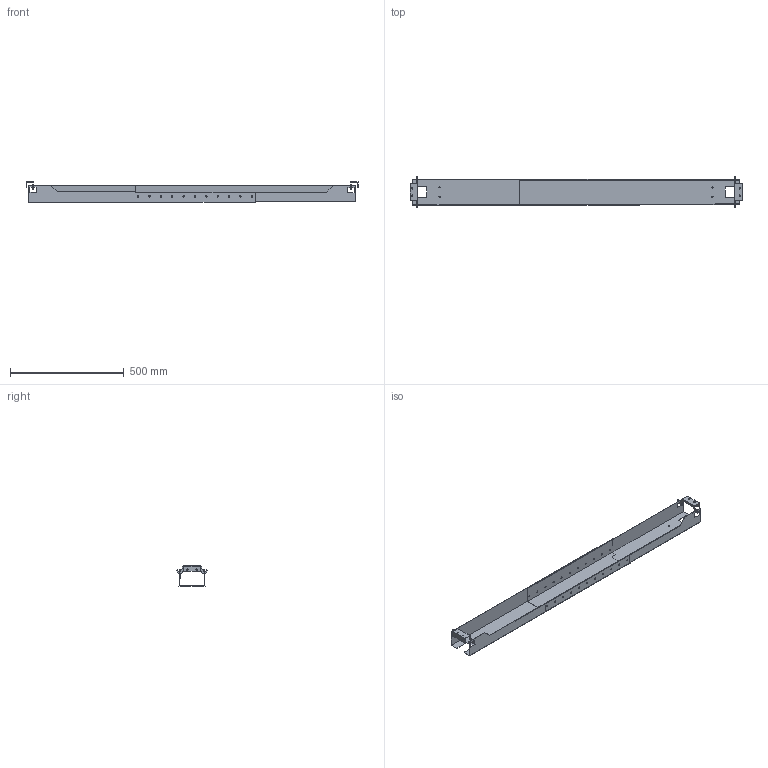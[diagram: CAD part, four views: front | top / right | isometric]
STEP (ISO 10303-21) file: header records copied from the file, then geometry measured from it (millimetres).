
FILE_DESCRIPTION( ( '' ), '1' );
FILE_NAME( 'C:/Users/dhek/Desktop/New folder/C_6/Legadrive/9243053.stp', '2018-02-20T11:36:23', ( '' ), ( '' ), ' ', ' ', ' ' );
FILE_SCHEMA( ( 'CONFIG_CONTROL_DESIGN' ) );
Length unit declared in the file: millimetre
Products named in the file (1): 1
Bounding box: 1460 x 133.54 x 89 mm (x, y, z)
Volume: 464578.2 mm3; surface area: 916634.7 mm2
Topology: 1 solids, 1 shells, 375 faces, 1191 edges, 816 vertices
Faces by surface type: cylinder 210, plane 165
Entity records: 13839 total; most frequent: DIRECTION 2517, CARTESIAN_POINT 2383, ORIENTED_EDGE 2382, EDGE_CURVE 1191, AXIS2_PLACEMENT_3D 950, VERTEX_POINT 816, LINE 617, VECTOR 617
